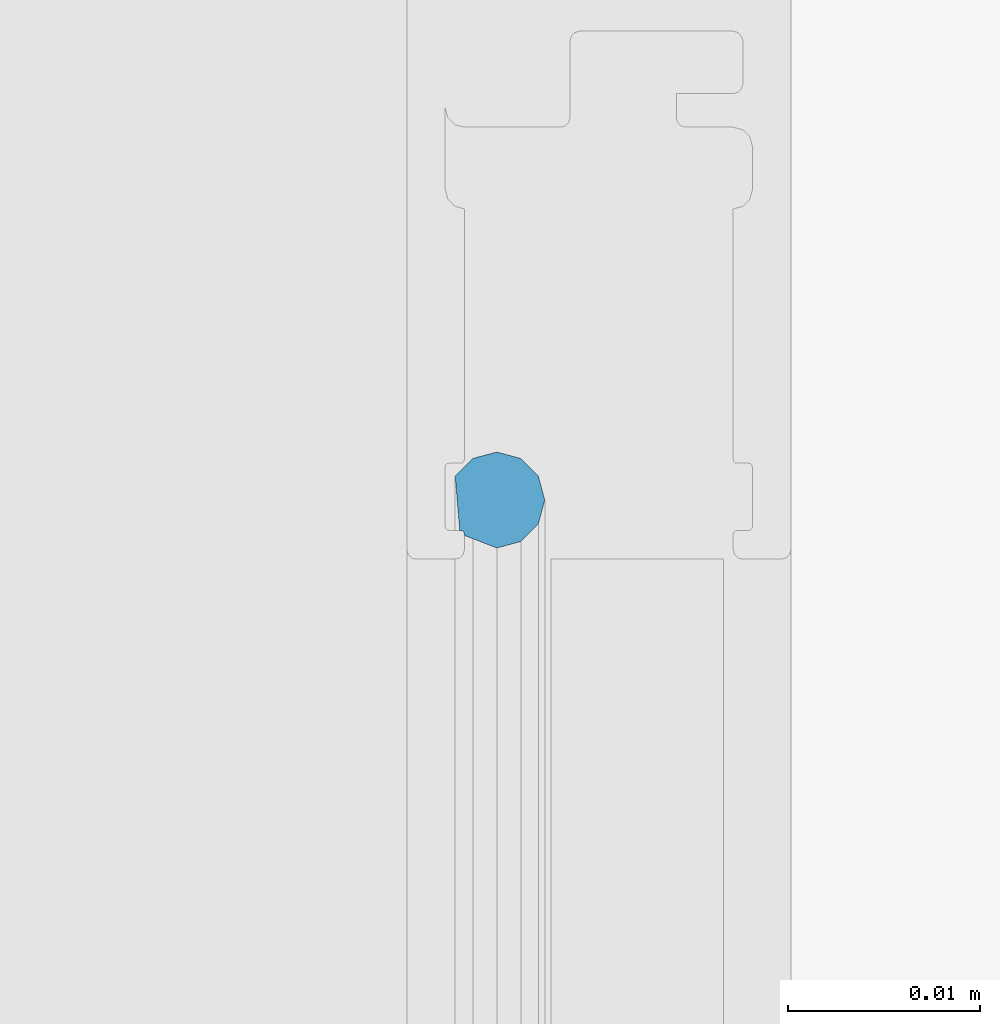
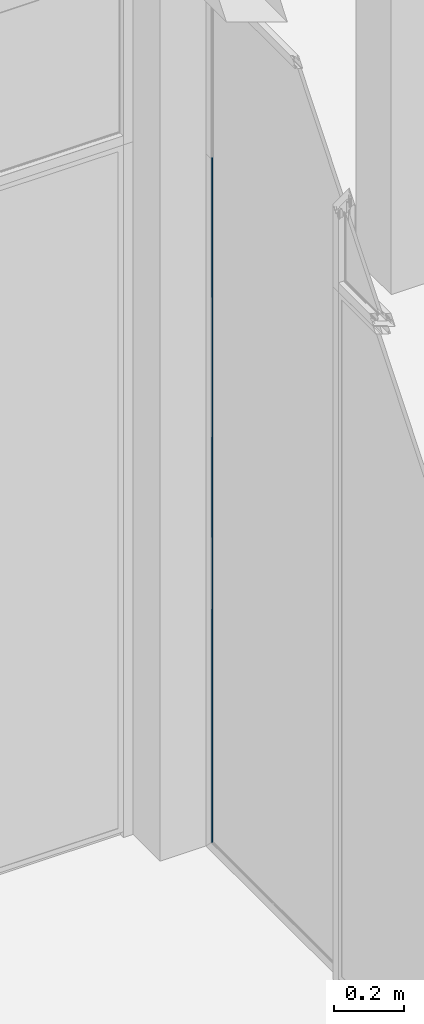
# One storey, part 90 of 387: 1 building element part, 2 elements without a shape of their own.
"""IFC2X3 building model written with IfcOpenShell, lengths in millimetres."""

from ifc_helpers import new_model, entity, si_unit, converted_unit, derived_unit, money_unit, direction, frame, origin_with_axes, place, context, subcontext, project, spatial, faceted_brep, source, transform, mapped, material, type_object, element, aggregate, save


model = new_model("IFC2X3")

# Units and contexts
model_context = context("Model", 3, precision=0.01, world=origin_with_axes(), true_north=direction((0.0, 1.0)))
body_context = subcontext(model_context, "Body", "Model", "MODEL_VIEW")
ifc_project = project(units=[si_unit("LENGTHUNIT", "METRE", prefix="MILLI"), si_unit("AREAUNIT", "SQUARE_METRE"), si_unit("VOLUMEUNIT", "CUBIC_METRE"), converted_unit("PLANEANGLEUNIT", "DEGREE", entity("IfcPlaneAngleMeasure", 0.0174532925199), si_unit("PLANEANGLEUNIT", "RADIAN"), dimensions=[0, 0, 0, 0, 0, 0, 0]), si_unit("SOLIDANGLEUNIT", "STERADIAN"), money_unit("EUR"), converted_unit("TIMEUNIT", "Year", entity("IfcTimeMeasure", 31556926.0), si_unit("TIMEUNIT", "SECOND"), dimensions=[0, 0, 1, 0, 0, 0, 0]), si_unit("MASSUNIT", "GRAM", prefix="KILO"), si_unit("THERMODYNAMICTEMPERATUREUNIT", "DEGREE_CELSIUS"), si_unit("LUMINOUSINTENSITYUNIT", "LUMEN"), si_unit("ENERGYUNIT", "JOULE", prefix="MEGA"), derived_unit("THERMALCONDUCTANCEUNIT", [(si_unit("POWERUNIT", "WATT"), 1), (si_unit("LENGTHUNIT", "METRE"), -1), (si_unit("THERMODYNAMICTEMPERATUREUNIT", "KELVIN"), -1)]), derived_unit("SPECIFICHEATCAPACITYUNIT", [(si_unit("ENERGYUNIT", "JOULE"), 1), (si_unit("MASSUNIT", "GRAM", prefix="KILO"), -1), (si_unit("THERMODYNAMICTEMPERATUREUNIT", "KELVIN"), -1)]), derived_unit("MASSDENSITYUNIT", [(si_unit("MASSUNIT", "GRAM", prefix="KILO"), 1), (si_unit("VOLUMEUNIT", "CUBIC_METRE"), -1)])], contexts=[model_context])

# Site, building, storey
site_placement = place(None, origin_with_axes())
site = spatial("IfcSite", under=ifc_project, at=site_placement, Name="Puškini 31, Narva", CompositionType="ELEMENT")
building_placement = place(site_placement, origin_with_axes())
building = spatial("IfcBuilding", under=site, at=building_placement, Name="Narva Riigigümnaasium", CompositionType="ELEMENT")
storey_placement = place(building_placement, frame((0.0, 0.0, 2640.0), z_axis=(0.0, 0.0, 1.0), x_axis=(1.0, 0.0, 0.0)))
storey = spatial("IfcBuildingStorey", under=building, at=storey_placement, Name="2.korrus +2.64", CompositionType="ELEMENT", Elevation=2640.0)

# Curtain wall, member, building element part
curtain_wall_type = type_object("IfcCurtainWallType", Name="Curtain Wall Type", PredefinedType="NOTDEFINED")
curtain_wall_placement = place(storey_placement, frame((28390.0000001, 180299.973357, -0.00013048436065), z_axis=(0.0, 0.0, 1.0), x_axis=(1.0, 0.0, 0.0)))
curtain_wall = element("IfcCurtainWall", 1, at=curtain_wall_placement, inside=storey, type_object=curtain_wall_type, Name="G-SKLF-17")
member_type = type_object("IfcMemberType", Name="30 x 10", PredefinedType="MULLION")
member_placement = place(curtain_wall_placement, frame((0.0, 1200.0, 0.0), z_axis=(0.0, 0.0, 1.0), x_axis=(0.0, 1.0, 0.0)))
member = element("IfcMember", 2, at=member_placement, type_object=member_type, Name="G-SKLF-65-raam", ObjectType="MULLION")
aggregate(curtain_wall, [member])
ifc_material = material(Name="Membraan - Veekindel")
shared_shape = source(origin_with_axes(), body_context, "Body", "Brep", [
    faceted_brep([(-25.6641727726, 7.48000965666, 25.6641727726), (-28.5, 7.24760028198, 28.5), (-28.5, 7.24760028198, 2400.00001337), (-25.6641727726, 7.48000965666, 2400.00001337), (-24.7491092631, 6.56494614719, 24.7491092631), (-24.4141727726, 5.31494614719, 24.4141727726), (-24.7491092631, 4.06494614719, 24.7491092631), (-25.6641727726, 3.14988263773, 25.6641727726), (-26.9141727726, 2.81494614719, 26.9141727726), (-28.1641727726, 3.14988263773, 28.1641727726), (-29.079236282, 4.06494614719, 29.079236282), (-29.4141727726, 5.31494614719, 29.4141727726), (-28.7609519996, 6.99999999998, 28.7609519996), (-28.7, 6.99999999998, 28.7), (-28.6, 7.02679491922, 28.6), (-28.5267949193, 7.09999999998, 28.5267949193), (-28.5, 7.19999999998, 28.5), (-28.5, 7.19999999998, 2400.00001337), (-28.5267949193, 7.09999999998, 2400.00001337), (-28.6, 7.02679491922, 2400.00001337), (-28.7, 6.99999999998, 2400.00001337), (-28.7609519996, 6.99999999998, 2400.00001337), (-29.4141727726, 5.31494614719, 2400.00001337), (-29.079236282, 4.06494614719, 2400.00001337), (-28.1641727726, 3.14988263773, 2400.00001337), (-26.9141727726, 2.81494614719, 2400.00001337), (-25.6641727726, 3.14988263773, 2400.00001337), (-24.7491092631, 4.06494614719, 2400.00001337), (-24.4141727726, 5.31494614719, 2400.00001337), (-24.7491092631, 6.56494614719, 2400.00001337)], [[[0, 1, 2, 3]], [[1, 0, 4, 5, 6, 7, 8, 9, 10, 11, 12, 13, 14, 15, 16]], [[1, 16, 17, 2]], [[2, 17, 18, 19, 20, 21, 22, 23, 24, 25, 26, 27, 28, 29, 3]], [[4, 0, 3, 29]], [[5, 4, 29, 28]], [[6, 5, 28, 27]], [[7, 6, 27, 26]], [[8, 7, 26, 25]], [[9, 8, 25, 24]], [[10, 9, 24, 23]], [[11, 10, 23, 22]], [[12, 11, 22, 21]], [[13, 12, 21, 20]], [[14, 13, 20, 19]], [[15, 14, 19, 18]], [[16, 15, 18, 17]]]),
])
building_element_part_placement = place(member_placement, origin_with_axes())
building_element_part = element("IfcBuildingElementPart", 3, at=building_element_part_placement, material=ifc_material, Name="Membraan - Veekindel", context=body_context, shape_type="MappedRepresentation", body=[
    mapped(shared_shape, transform((0.0, 0.0, 0.0))),
])
aggregate(member, [building_element_part])

save(model, "model.ifc")
